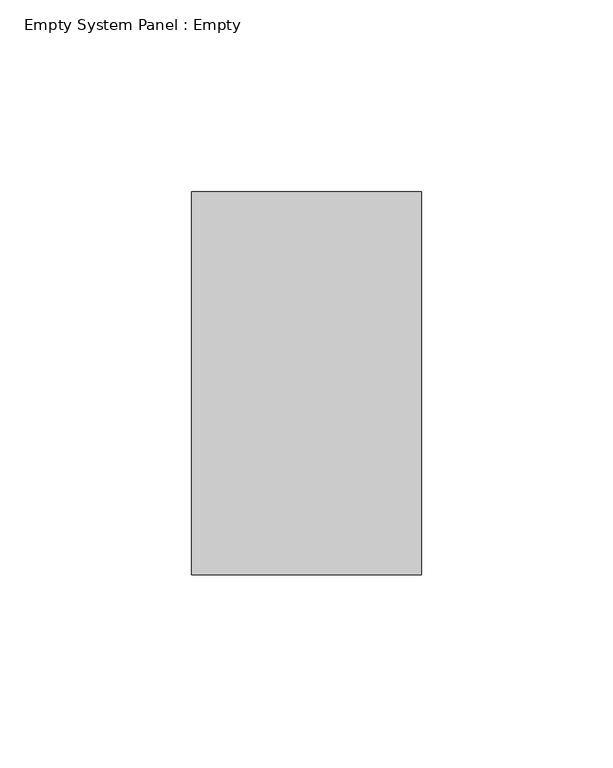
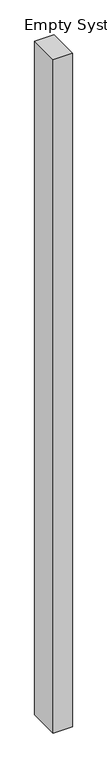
"""IFC4 building model written with IfcOpenShell, lengths in millimetres: plate geometry, Empty System Panel : Empty."""

from ifc_helpers import new_model, si_unit, origin, origin_with_axes, place, context, project, spatial, polyline, outline, extrude, source, transform, mapped, element, save


def empty_system_panel_empty_ddf532ef(model_context):
    return source(origin(), model_context, "Body", "SweptSolid", [
        extrude(outline(polyline([(30.0, -150.0), (-30.0, -150.0), (-30.0, -50.0), (30.0, -50.0), (30.0, -150.0)])), origin_with_axes(), (0.0, 0.0, 1.0), 2225.0),
    ])


if __name__ == "__main__":
    model = new_model("IFC4")
    model_context = context("Model", 3, world=origin())
    ifc_project = project(units=[si_unit("LENGTHUNIT", "METRE", prefix="MILLI")], contexts=[model_context])
    site = spatial("IfcSite", under=ifc_project)
    building = spatial("IfcBuilding", under=site)
    placement = place(None, origin())
    empty_system_panel_empty_shape = empty_system_panel_empty_ddf532ef(model_context)
    element("IfcPlate", 1, ObjectType="Empty System Panel : Empty", at=placement, inside=building, context=model_context, shape_type="MappedRepresentation", body=[
        mapped(empty_system_panel_empty_shape, transform((0.0, 0.0, 0.0), x_axis=(1.0, 0.0, 0.0), y_axis=(0.0, 1.0, 0.0), z_axis=(0.0, 0.0, 1.0))),
    ])
    save(model, "model.ifc")
